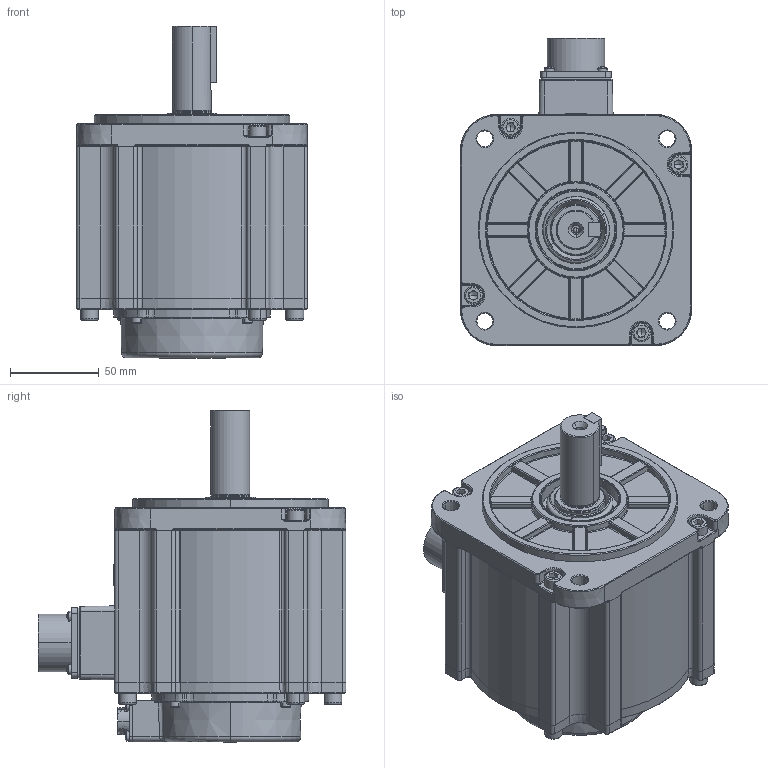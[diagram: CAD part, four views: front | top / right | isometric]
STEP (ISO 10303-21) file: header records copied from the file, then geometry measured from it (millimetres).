
FILE_DESCRIPTION (( 'STEP AP203' ), '1' );
FILE_NAME ('4031315-[][][][]_130µç»ú_DM1S-15A130[]8S.STEP', '2020-06-06T02:22:15', ( '' ), ( '' ), 'SwSTEP 2.0', 'SolidWorks 2018', '' );
FILE_SCHEMA (( 'CONFIG_CONTROL_DESIGN' ));
Length unit declared in the file: millimetre
Products named in the file (1): 4031315-[][][][]_130萇儂_DM1S-15A130[]8S
Bounding box: 130 x 173 x 186.7 mm (x, y, z)
Surface area: 135519.8 mm2 (no closed solid volume)
Topology: 0 solids, 51 shells, 1242 faces, 3741 edges, 2427 vertices
Faces by surface type: plane 401, cylinder 296, bspline 211, cone 162, torus 140, sphere 32
Entity records: 50419 total; most frequent: CARTESIAN_POINT 18835, DIRECTION 6494, ORIENTED_EDGE 6216, EDGE_CURVE 3687, AXIS2_PLACEMENT_3D 2482, VERTEX_POINT 2425, VECTOR 1530, LINE 1530
